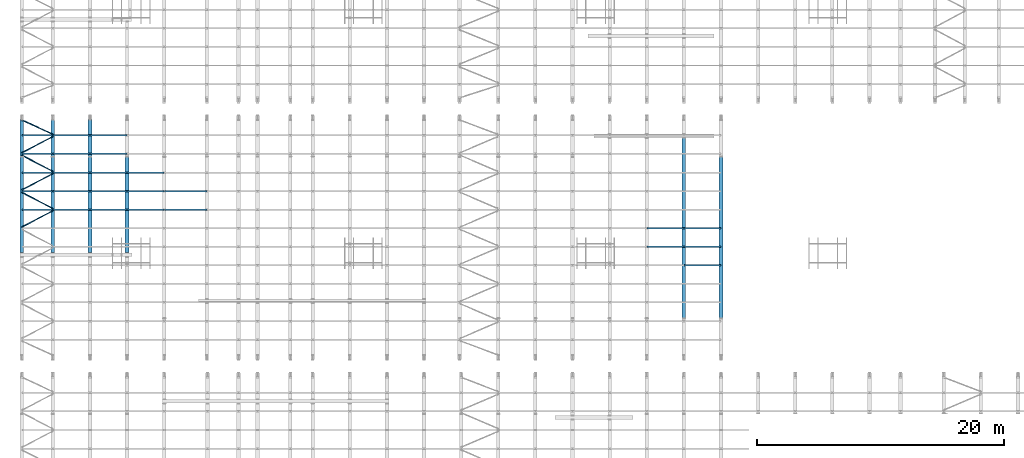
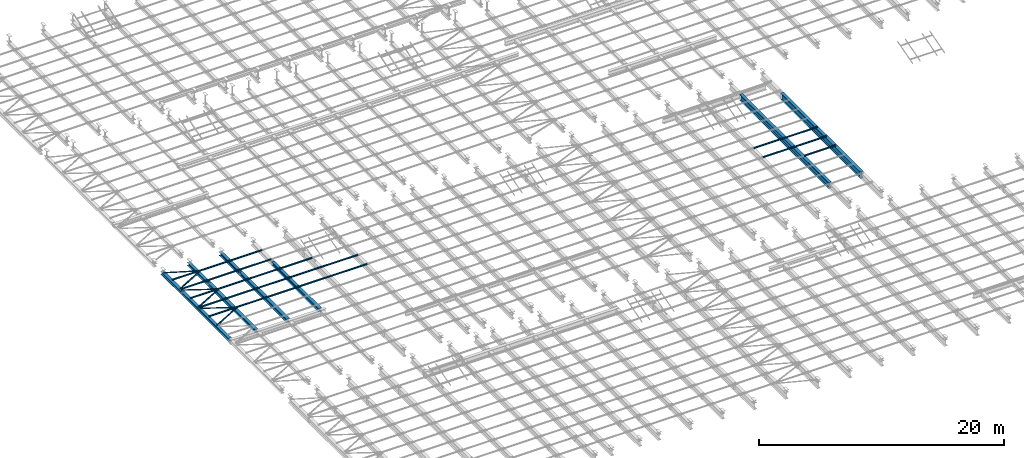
# One storey, part 50 of 139: 40 beams.
"""IFC2X3 building model written with IfcOpenShell, lengths in metres."""

from ifc_helpers import new_model, entity, si_unit, converted_unit, derived_unit, frame, origin, place, context, subcontext, project, spatial, polyline, outline, extrude, material, element, save


model = new_model("IFC2X3")

# Units and contexts
model_context = context("Model", 3, precision=1e-05, world=origin())
body_context = subcontext(model_context, "Body", "Model", "MODEL_VIEW")
ifc_project = project(units=[si_unit("LENGTHUNIT", "METRE"), si_unit("AREAUNIT", "SQUARE_METRE"), si_unit("VOLUMEUNIT", "CUBIC_METRE"), si_unit("MASSUNIT", "GRAM", prefix="KILO"), converted_unit("PLANEANGLEUNIT", "DEGREE", entity("IfcPlaneAngleMeasure", 0.0174532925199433), si_unit("PLANEANGLEUNIT", "RADIAN"), dimensions=[0, 0, 0, 0, 0, 0, 0]), derived_unit("THERMALTRANSMITTANCEUNIT", [(si_unit("POWERUNIT", "WATT"), 1), (si_unit("THERMODYNAMICTEMPERATUREUNIT", "KELVIN"), -1), (si_unit("LENGTHUNIT", "METRE"), -2)]), derived_unit("VOLUMETRICFLOWRATEUNIT", [(si_unit("LENGTHUNIT", "METRE"), 3), (converted_unit("TIMEUNIT", "hour", entity("IfcTimeMeasure", 3600.0), si_unit("TIMEUNIT", "SECOND"), dimensions=[0, 0, 1, 0, 0, 0, 0]), -1), (si_unit("LENGTHUNIT", "METRE"), -1)])], contexts=[model_context])

# Site, building, storey
site_placement = place(None, origin())
site = spatial("IfcSite", under=ifc_project, at=site_placement, Name="TWP_Speiseverteilzentrum SBW VZ II", CompositionType="ELEMENT")
building_placement = place(site_placement, origin())
building = spatial("IfcBuilding", under=site, at=building_placement, Name="Speiseverteilzentrum SBW VZ II", CompositionType="ELEMENT")
storey_placement = place(building_placement, frame((0.0, 0.0, 7.1307)))
storey = spatial("IfcBuildingStorey", under=building, at=storey_placement, Name="Wartung_FFB", CompositionType="ELEMENT", Elevation=7.1307)

# Beams
ifc_material_1 = material(Name="S235")
beam_1_placement = place(storey_placement, frame((10.5500000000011, 47.7020742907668, -0.335), z_axis=(0.0, 0.0, 1.0), x_axis=(-1.0, 0.0, 0.0)))
element("IfcBeam", 1, at=beam_1_placement, inside=storey, material=ifc_material_1, Name="Stahlträger", context=body_context, shape_type="SweptSolid", body=[
    extrude(outline(polyline([(-0.15, 0.145), (-0.15, 0.131), (-0.00424999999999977, 0.131), (-0.00424999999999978, -0.131), (-0.15, -0.131), (-0.15, -0.145), (0.15, -0.145), (0.15, -0.131), (0.00425000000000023, -0.131), (0.00425000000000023, 0.131), (0.15, 0.131), (0.15, 0.145), (-0.15, 0.145)])), frame((0.0, 0.0, 0.0), z_axis=(0.0, 1.0, 0.0), x_axis=(-1.0, 0.0, 0.0)), (0.0, 0.0, 1.0), 7.72726239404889),
])
ifc_material_2 = material(Name="S235")
beam_2_placement = place(storey_placement, frame((13.0500000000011, 47.7020742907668, -0.335), z_axis=(0.0, 0.0, 1.0), x_axis=(-1.0, 0.0, 0.0)))
element("IfcBeam", 2, at=beam_2_placement, inside=storey, material=ifc_material_2, Name="Stahlträger", context=body_context, shape_type="SweptSolid", body=[
    extrude(outline(polyline([(-0.15, 0.145), (-0.15, 0.131), (-0.00424999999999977, 0.131), (-0.00424999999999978, -0.131), (-0.15, -0.131), (-0.15, -0.145), (0.15, -0.145), (0.15, -0.131), (0.00425000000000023, -0.131), (0.00425000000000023, 0.131), (0.15, 0.131), (0.15, 0.145), (-0.15, 0.145)])), frame((0.0, 0.0, 0.0), z_axis=(0.0, 1.0, 0.0), x_axis=(-1.0, 0.0, 0.0)), (0.0, 0.0, 1.0), 7.72726239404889),
])
ifc_material_3 = material(Name="S235")
beam_3_placement = place(storey_placement, frame((19.0500000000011, 47.7020742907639, -0.365), z_axis=(0.0, 0.0, 1.0), x_axis=(-1.0, 0.0, 0.0)))
element("IfcBeam", 3, at=beam_3_placement, inside=storey, material=ifc_material_3, Name="Stahlträger", context=body_context, shape_type="SweptSolid", body=[
    extrude(outline(polyline([(-0.15, 0.175), (-0.15, 0.1575), (-0.00500000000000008, 0.1575), (-0.0050000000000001, -0.1575), (-0.15, -0.1575), (-0.15, -0.175), (0.15, -0.175), (0.15, -0.1575), (0.0049999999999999, -0.1575), (0.00499999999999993, 0.1575), (0.15, 0.1575), (0.15, 0.175), (-0.15, 0.175)])), frame((0.0, 0.0, 0.0), z_axis=(0.0, 1.0, 0.0), x_axis=(-1.0, 0.0, 0.0)), (0.0, 0.0, 1.0), 7.72726239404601),
])
ifc_material_4 = material(Name="S235")
beam_4_placement = place(storey_placement, frame((16.0500000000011, 47.7020742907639, -0.365), z_axis=(0.0, 0.0, 1.0), x_axis=(-1.0, 0.0, 0.0)))
element("IfcBeam", 4, at=beam_4_placement, inside=storey, material=ifc_material_4, Name="Stahlträger", context=body_context, shape_type="SweptSolid", body=[
    extrude(outline(polyline([(-0.15, 0.175), (-0.15, 0.1575), (-0.00500000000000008, 0.1575), (-0.0050000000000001, -0.1575), (-0.15, -0.1575), (-0.15, -0.175), (0.15, -0.175), (0.15, -0.1575), (0.0049999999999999, -0.1575), (0.00499999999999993, 0.1575), (0.15, 0.1575), (0.15, 0.175), (-0.15, 0.175)])), frame((0.0, 0.0, 0.0), z_axis=(0.0, 1.0, 0.0), x_axis=(-1.0, 0.0, 0.0)), (0.0, 0.0, 1.0), 7.72726239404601),
])
ifc_material_5 = material(Name="S235")
beam_5_placement = place(storey_placement, frame((67.0500000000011, 47.7020742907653, -0.51), z_axis=(0.0, 0.0, 1.0), x_axis=(-1.0, 0.0, 0.0)))
element("IfcBeam", 5, at=beam_5_placement, inside=storey, material=ifc_material_5, Name="Stahlträger", context=body_context, shape_type="SweptSolid", body=[
    extrude(outline(polyline([(-0.15, 0.32), (-0.15, 0.294), (-0.00675000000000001, 0.294), (-0.00675000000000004, -0.294), (-0.15, -0.294), (-0.15, -0.32), (0.15, -0.32), (0.15, -0.294), (0.00674999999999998, -0.294), (0.00675000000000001, 0.294), (0.15, 0.294), (0.15, 0.32), (-0.15, 0.32)])), frame((0.0, 0.0, 0.0), z_axis=(0.0, 1.0, 0.0), x_axis=(-1.0, 0.0, 0.0)), (0.0, 0.0, 1.0), 13.0041485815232),
])
ifc_material_6 = material(Name="S235")
beam_6_placement = place(storey_placement, frame((64.0500000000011, 49.224720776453, -0.485), z_axis=(0.0, 0.0, 1.0), x_axis=(-1.0, 0.0, 0.0)))
element("IfcBeam", 6, at=beam_6_placement, inside=storey, material=ifc_material_6, Name="Stahlträger", context=body_context, shape_type="SweptSolid", body=[
    extrude(outline(polyline([(-0.15, 0.295), (-0.15, 0.27), (-0.0065, 0.27), (-0.00650000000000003, -0.27), (-0.15, -0.27), (-0.15, -0.295), (0.15, -0.295), (0.15, -0.27), (0.00649999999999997, -0.27), (0.00650000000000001, 0.27), (0.15, 0.27), (0.15, 0.295), (-0.15, 0.295)])), frame((0.0, 0.0, 0.0), z_axis=(0.0, 1.0, 0.0), x_axis=(-1.0, 0.0, 0.0)), (0.0, 0.0, 1.0), 14.5267950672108),
])
ifc_material_7 = material(Name="S235")
beam_7_placement = place(storey_placement, frame((10.5500000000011, 51.0500000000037, -0.335), z_axis=(0.0, 0.0, 1.0), x_axis=(-1.0, 0.0, 0.0)))
element("IfcBeam", 7, at=beam_7_placement, inside=storey, material=ifc_material_7, Name="Stahlträger", context=body_context, shape_type="SweptSolid", body=[
    extrude(outline(polyline([(-0.15, 0.145), (-0.15, 0.131), (-0.00424999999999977, 0.131), (-0.00424999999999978, -0.131), (-0.15, -0.131), (-0.15, -0.145), (0.15, -0.145), (0.15, -0.131), (0.00425000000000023, -0.131), (0.00425000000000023, 0.131), (0.15, 0.131), (0.15, 0.145), (-0.15, 0.145)])), frame((0.0, 0.0, 0.0), z_axis=(0.0, 1.0, 0.0), x_axis=(-1.0, 0.0, 0.0)), (0.0, 0.0, 1.0), 3.29792570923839),
])
ifc_material_8 = material(Name="S235")
beam_8_placement = place(storey_placement, frame((13.0500000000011, 51.0500000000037, -0.335), z_axis=(0.0, 0.0, 1.0), x_axis=(-1.0, 0.0, 0.0)))
element("IfcBeam", 8, at=beam_8_placement, inside=storey, material=ifc_material_8, Name="Stahlträger", context=body_context, shape_type="SweptSolid", body=[
    extrude(outline(polyline([(-0.15, 0.145), (-0.15, 0.131), (-0.00424999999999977, 0.131), (-0.00424999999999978, -0.131), (-0.15, -0.131), (-0.15, -0.145), (0.15, -0.145), (0.15, -0.131), (0.00425000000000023, -0.131), (0.00425000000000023, 0.131), (0.15, 0.131), (0.15, 0.145), (-0.15, 0.145)])), frame((0.0, 0.0, 0.0), z_axis=(0.0, 1.0, 0.0), x_axis=(-1.0, 0.0, 0.0)), (0.0, 0.0, 1.0), 3.29792570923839),
])
ifc_material_9 = material(Name="S235")
beam_9_placement = place(storey_placement, frame((16.0500000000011, 51.0500000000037, -0.365), z_axis=(0.0, 0.0, 1.0), x_axis=(-1.0, 0.0, 0.0)))
element("IfcBeam", 9, at=beam_9_placement, inside=storey, material=ifc_material_9, Name="Stahlträger", context=body_context, shape_type="SweptSolid", body=[
    extrude(outline(polyline([(-0.15, 0.175), (-0.15, 0.1575), (-0.00500000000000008, 0.1575), (-0.0050000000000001, -0.1575), (-0.15, -0.1575), (-0.15, -0.175), (0.15, -0.175), (0.15, -0.1575), (0.0049999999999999, -0.1575), (0.00499999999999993, 0.1575), (0.15, 0.1575), (0.15, 0.175), (-0.15, 0.175)])), frame((0.0, 0.0, 0.0), z_axis=(0.0, 1.0, 0.0), x_axis=(-1.0, 0.0, 0.0)), (0.0, 0.0, 1.0), 3.29792570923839),
])
ifc_material_10 = material(Name="S235")
beam_10_placement = place(storey_placement, frame((13.0600000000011, 49.4500000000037, -0.133), z_axis=(0.0, 0.0, 1.0), x_axis=(0.0, -1.0, 0.0)))
element("IfcBeam", 10, at=beam_10_placement, inside=storey, material=ifc_material_10, Name="Nebenträger", context=body_context, shape_type="SweptSolid", body=[
    extrude(outline(polyline([(-0.06, 0.0570000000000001), (-0.06, 0.0490000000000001), (-0.00249999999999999, 0.0490000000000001), (-0.0025, -0.0489999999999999), (-0.06, -0.0489999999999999), (-0.06, -0.0569999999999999), (0.06, -0.0569999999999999), (0.06, -0.0489999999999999), (0.0025, -0.0489999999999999), (0.00250000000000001, 0.0490000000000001), (0.06, 0.0490000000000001), (0.06, 0.0570000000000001), (-0.06, 0.0570000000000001)])), frame((0.0, 0.0, 0.0), z_axis=(0.0, 1.0, 0.0), x_axis=(-1.0, 0.0, 0.0)), (0.0, 0.0, 1.0), 2.98),
])
ifc_material_11 = material(Name="S235")
beam_11_placement = place(storey_placement, frame((16.0600000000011, 49.4500000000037, -0.133), z_axis=(0.0, 0.0, 1.0), x_axis=(0.0, -1.0, 0.0)))
element("IfcBeam", 11, at=beam_11_placement, inside=storey, material=ifc_material_11, Name="Nebenträger", context=body_context, shape_type="SweptSolid", body=[
    extrude(outline(polyline([(-0.06, 0.0570000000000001), (-0.06, 0.0490000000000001), (-0.00249999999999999, 0.0490000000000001), (-0.0025, -0.0489999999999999), (-0.06, -0.0489999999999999), (-0.06, -0.0569999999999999), (0.06, -0.0569999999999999), (0.06, -0.0489999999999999), (0.0025, -0.0489999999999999), (0.00250000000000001, 0.0490000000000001), (0.06, 0.0490000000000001), (0.06, 0.0570000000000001), (-0.06, 0.0570000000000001)])), frame((0.0, 0.0, 0.0), z_axis=(0.0, 1.0, 0.0), x_axis=(-1.0, 0.0, 0.0)), (0.0, 0.0, 1.0), 2.98),
])
ifc_material_12 = material(Name="S235")
beam_12_placement = place(storey_placement, frame((10.5600000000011, 49.4500000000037, -0.133), z_axis=(0.0, 0.0, 1.0), x_axis=(0.0, -1.0, 0.0)))
element("IfcBeam", 12, at=beam_12_placement, inside=storey, material=ifc_material_12, Name="Nebenträger", context=body_context, shape_type="SweptSolid", body=[
    extrude(outline(polyline([(-0.06, 0.0570000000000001), (-0.06, 0.0490000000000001), (-0.00249999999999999, 0.0490000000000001), (-0.0025, -0.0489999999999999), (-0.06, -0.0489999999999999), (-0.06, -0.0569999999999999), (0.06, -0.0569999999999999), (0.06, -0.0489999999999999), (0.0025, -0.0489999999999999), (0.00250000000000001, 0.0490000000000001), (0.06, 0.0490000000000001), (0.06, 0.0570000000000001), (-0.06, 0.0570000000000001)])), frame((0.0, 0.0, 0.0), z_axis=(0.0, 1.0, 0.0), x_axis=(-1.0, 0.0, 0.0)), (0.0, 0.0, 1.0), 2.48000000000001),
])
ifc_material_13 = material(Name="S235")
beam_13_placement = place(storey_placement, frame((13.0600000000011, 47.9500000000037, -0.133), z_axis=(0.0, 0.0, 1.0), x_axis=(0.0, -1.0, 0.0)))
element("IfcBeam", 13, at=beam_13_placement, inside=storey, material=ifc_material_13, Name="Nebenträger", context=body_context, shape_type="SweptSolid", body=[
    extrude(outline(polyline([(-0.06, 0.0570000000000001), (-0.06, 0.0490000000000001), (-0.00249999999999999, 0.0490000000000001), (-0.0025, -0.0489999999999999), (-0.06, -0.0489999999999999), (-0.06, -0.0569999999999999), (0.06, -0.0569999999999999), (0.06, -0.0489999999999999), (0.0025, -0.0489999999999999), (0.00250000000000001, 0.0490000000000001), (0.06, 0.0490000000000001), (0.06, 0.0570000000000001), (-0.06, 0.0570000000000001)])), frame((0.0, 0.0, 0.0), z_axis=(0.0, 1.0, 0.0), x_axis=(-1.0, 0.0, 0.0)), (0.0, 0.0, 1.0), 2.98),
])
ifc_material_14 = material(Name="S235")
beam_14_placement = place(storey_placement, frame((16.0600000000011, 47.9500000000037, -0.133), z_axis=(0.0, 0.0, 1.0), x_axis=(0.0, -1.0, 0.0)))
element("IfcBeam", 14, at=beam_14_placement, inside=storey, material=ifc_material_14, Name="Nebenträger", context=body_context, shape_type="SweptSolid", body=[
    extrude(outline(polyline([(-0.06, 0.0570000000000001), (-0.06, 0.0490000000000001), (-0.00249999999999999, 0.0490000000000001), (-0.0025, -0.0489999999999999), (-0.06, -0.0489999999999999), (-0.06, -0.0569999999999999), (0.06, -0.0569999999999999), (0.06, -0.0489999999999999), (0.0025, -0.0489999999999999), (0.00250000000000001, 0.0490000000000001), (0.06, 0.0490000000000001), (0.06, 0.0570000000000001), (-0.06, 0.0570000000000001)])), frame((0.0, 0.0, 0.0), z_axis=(0.0, 1.0, 0.0), x_axis=(-1.0, 0.0, 0.0)), (0.0, 0.0, 1.0), 2.98),
])
ifc_material_15 = material(Name="S235")
beam_15_placement = place(storey_placement, frame((10.5600000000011, 47.9500000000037, -0.133), z_axis=(0.0, 0.0, 1.0), x_axis=(0.0, -1.0, 0.0)))
element("IfcBeam", 15, at=beam_15_placement, inside=storey, material=ifc_material_15, Name="Nebenträger", context=body_context, shape_type="SweptSolid", body=[
    extrude(outline(polyline([(-0.06, 0.0570000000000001), (-0.06, 0.0490000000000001), (-0.00249999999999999, 0.0490000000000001), (-0.0025, -0.0489999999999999), (-0.06, -0.0489999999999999), (-0.06, -0.0569999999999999), (0.06, -0.0569999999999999), (0.06, -0.0489999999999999), (0.0025, -0.0489999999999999), (0.00250000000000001, 0.0490000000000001), (0.06, 0.0490000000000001), (0.06, 0.0570000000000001), (-0.06, 0.0570000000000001)])), frame((0.0, 0.0, 0.0), z_axis=(0.0, 1.0, 0.0), x_axis=(-1.0, 0.0, 0.0)), (0.0, 0.0, 1.0), 2.48000000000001),
])
ifc_material_16 = material(Name="S235")
beam_16_placement = place(storey_placement, frame((13.0600000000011, 46.4500000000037, -0.133), z_axis=(0.0, 0.0, 1.0), x_axis=(0.0, -1.0, 0.0)))
element("IfcBeam", 16, at=beam_16_placement, inside=storey, material=ifc_material_16, Name="Nebenträger", context=body_context, shape_type="SweptSolid", body=[
    extrude(outline(polyline([(-0.06, 0.0570000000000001), (-0.06, 0.0490000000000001), (-0.00249999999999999, 0.0490000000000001), (-0.0025, -0.0489999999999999), (-0.06, -0.0489999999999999), (-0.06, -0.0569999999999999), (0.06, -0.0569999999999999), (0.06, -0.0489999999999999), (0.0025, -0.0489999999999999), (0.00250000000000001, 0.0490000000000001), (0.06, 0.0490000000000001), (0.06, 0.0570000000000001), (-0.06, 0.0570000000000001)])), frame((0.0, 0.0, 0.0), z_axis=(0.0, 1.0, 0.0), x_axis=(-1.0, 0.0, 0.0)), (0.0, 0.0, 1.0), 2.98),
])
ifc_material_17 = material(Name="S235")
beam_17_placement = place(storey_placement, frame((16.0600000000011, 46.4500000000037, -0.133), z_axis=(0.0, 0.0, 1.0), x_axis=(0.0, -1.0, 0.0)))
element("IfcBeam", 17, at=beam_17_placement, inside=storey, material=ifc_material_17, Name="Nebenträger", context=body_context, shape_type="SweptSolid", body=[
    extrude(outline(polyline([(-0.06, 0.0570000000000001), (-0.06, 0.0490000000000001), (-0.00249999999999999, 0.0490000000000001), (-0.0025, -0.0489999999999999), (-0.06, -0.0489999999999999), (-0.06, -0.0569999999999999), (0.06, -0.0569999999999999), (0.06, -0.0489999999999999), (0.0025, -0.0489999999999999), (0.00250000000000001, 0.0490000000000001), (0.06, 0.0490000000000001), (0.06, 0.0570000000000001), (-0.06, 0.0570000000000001)])), frame((0.0, 0.0, 0.0), z_axis=(0.0, 1.0, 0.0), x_axis=(-1.0, 0.0, 0.0)), (0.0, 0.0, 1.0), 2.98),
])
ifc_material_18 = material(Name="S235")
beam_18_placement = place(storey_placement, frame((19.0600000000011, 46.4500000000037, -0.133), z_axis=(0.0, 0.0, 1.0), x_axis=(0.0, -1.0, 0.0)))
element("IfcBeam", 18, at=beam_18_placement, inside=storey, material=ifc_material_18, Name="Nebenträger", context=body_context, shape_type="SweptSolid", body=[
    extrude(outline(polyline([(-0.06, 0.0570000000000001), (-0.06, 0.0490000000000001), (-0.00249999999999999, 0.0490000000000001), (-0.0025, -0.0489999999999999), (-0.06, -0.0489999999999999), (-0.06, -0.0569999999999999), (0.06, -0.0569999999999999), (0.06, -0.0489999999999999), (0.0025, -0.0489999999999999), (0.00250000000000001, 0.0490000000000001), (0.06, 0.0490000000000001), (0.06, 0.0570000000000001), (-0.06, 0.0570000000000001)])), frame((0.0, 0.0, 0.0), z_axis=(0.0, 1.0, 0.0), x_axis=(-1.0, 0.0, 0.0)), (0.0, 0.0, 1.0), 2.98),
])
ifc_material_19 = material(Name="S235")
beam_19_placement = place(storey_placement, frame((10.5600000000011, 46.4500000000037, -0.133), z_axis=(0.0, 0.0, 1.0), x_axis=(0.0, -1.0, 0.0)))
element("IfcBeam", 19, at=beam_19_placement, inside=storey, material=ifc_material_19, Name="Nebenträger", context=body_context, shape_type="SweptSolid", body=[
    extrude(outline(polyline([(-0.06, 0.0570000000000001), (-0.06, 0.0490000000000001), (-0.00249999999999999, 0.0490000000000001), (-0.0025, -0.0489999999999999), (-0.06, -0.0489999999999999), (-0.06, -0.0569999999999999), (0.06, -0.0569999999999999), (0.06, -0.0489999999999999), (0.0025, -0.0489999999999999), (0.00250000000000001, 0.0490000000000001), (0.06, 0.0490000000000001), (0.06, 0.0570000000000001), (-0.06, 0.0570000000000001)])), frame((0.0, 0.0, 0.0), z_axis=(0.0, 1.0, 0.0), x_axis=(-1.0, 0.0, 0.0)), (0.0, 0.0, 1.0), 2.48000000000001),
])
ifc_material_20 = material(Name="S235")
beam_20_placement = place(storey_placement, frame((13.0600000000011, 44.9500000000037, -0.133), z_axis=(0.0, 0.0, 1.0), x_axis=(0.0, -1.0, 0.0)))
element("IfcBeam", 20, at=beam_20_placement, inside=storey, material=ifc_material_20, Name="Nebenträger", context=body_context, shape_type="SweptSolid", body=[
    extrude(outline(polyline([(-0.06, 0.0570000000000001), (-0.06, 0.0490000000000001), (-0.00249999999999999, 0.0490000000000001), (-0.0025, -0.0489999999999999), (-0.06, -0.0489999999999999), (-0.06, -0.0569999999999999), (0.06, -0.0569999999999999), (0.06, -0.0489999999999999), (0.0025, -0.0489999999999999), (0.00250000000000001, 0.0490000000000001), (0.06, 0.0490000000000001), (0.06, 0.0570000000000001), (-0.06, 0.0570000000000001)])), frame((0.0, 0.0, 0.0), z_axis=(0.0, 1.0, 0.0), x_axis=(-1.0, 0.0, 0.0)), (0.0, 0.0, 1.0), 2.98),
])
ifc_material_21 = material(Name="S235")
beam_21_placement = place(storey_placement, frame((16.0600000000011, 44.9500000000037, -0.133), z_axis=(0.0, 0.0, 1.0), x_axis=(0.0, -1.0, 0.0)))
element("IfcBeam", 21, at=beam_21_placement, inside=storey, material=ifc_material_21, Name="Nebenträger", context=body_context, shape_type="SweptSolid", body=[
    extrude(outline(polyline([(-0.06, 0.0570000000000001), (-0.06, 0.0490000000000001), (-0.00249999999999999, 0.0490000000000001), (-0.0025, -0.0489999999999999), (-0.06, -0.0489999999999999), (-0.06, -0.0569999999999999), (0.06, -0.0569999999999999), (0.06, -0.0489999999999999), (0.0025, -0.0489999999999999), (0.00250000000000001, 0.0490000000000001), (0.06, 0.0490000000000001), (0.06, 0.0570000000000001), (-0.06, 0.0570000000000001)])), frame((0.0, 0.0, 0.0), z_axis=(0.0, 1.0, 0.0), x_axis=(-1.0, 0.0, 0.0)), (0.0, 0.0, 1.0), 2.98),
])
ifc_material_22 = material(Name="S235")
beam_22_placement = place(storey_placement, frame((19.0600000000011, 44.9500000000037, -0.133), z_axis=(0.0, 0.0, 1.0), x_axis=(0.0, -1.0, 0.0)))
element("IfcBeam", 22, at=beam_22_placement, inside=storey, material=ifc_material_22, Name="Nebenträger", context=body_context, shape_type="SweptSolid", body=[
    extrude(outline(polyline([(-0.06, 0.0570000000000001), (-0.06, 0.0490000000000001), (-0.00249999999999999, 0.0490000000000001), (-0.0025, -0.0489999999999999), (-0.06, -0.0489999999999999), (-0.06, -0.0569999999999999), (0.06, -0.0569999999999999), (0.06, -0.0489999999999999), (0.0025, -0.0489999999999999), (0.00250000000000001, 0.0490000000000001), (0.06, 0.0490000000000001), (0.06, 0.0570000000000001), (-0.06, 0.0570000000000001)])), frame((0.0, 0.0, 0.0), z_axis=(0.0, 1.0, 0.0), x_axis=(-1.0, 0.0, 0.0)), (0.0, 0.0, 1.0), 2.98),
])
ifc_material_23 = material(Name="S235")
beam_23_placement = place(storey_placement, frame((10.5600000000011, 44.9500000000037, -0.133), z_axis=(0.0, 0.0, 1.0), x_axis=(0.0, -1.0, 0.0)))
element("IfcBeam", 23, at=beam_23_placement, inside=storey, material=ifc_material_23, Name="Nebenträger", context=body_context, shape_type="SweptSolid", body=[
    extrude(outline(polyline([(-0.06, 0.0570000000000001), (-0.06, 0.0490000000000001), (-0.00249999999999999, 0.0490000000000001), (-0.0025, -0.0489999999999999), (-0.06, -0.0489999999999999), (-0.06, -0.0569999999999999), (0.06, -0.0569999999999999), (0.06, -0.0489999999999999), (0.0025, -0.0489999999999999), (0.00250000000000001, 0.0490000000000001), (0.06, 0.0490000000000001), (0.06, 0.0570000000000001), (-0.06, 0.0570000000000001)])), frame((0.0, 0.0, 0.0), z_axis=(0.0, 1.0, 0.0), x_axis=(-1.0, 0.0, 0.0)), (0.0, 0.0, 1.0), 2.48000000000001),
])
ifc_material_24 = material(Name="S235")
beam_24_placement = place(storey_placement, frame((13.0600000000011, 43.4500000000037, -0.133), z_axis=(0.0, 0.0, 1.0), x_axis=(0.0, -1.0, 0.0)))
element("IfcBeam", 24, at=beam_24_placement, inside=storey, material=ifc_material_24, Name="Nebenträger", context=body_context, shape_type="SweptSolid", body=[
    extrude(outline(polyline([(-0.06, 0.0570000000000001), (-0.06, 0.0490000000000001), (-0.00249999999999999, 0.0490000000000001), (-0.0025, -0.0489999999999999), (-0.06, -0.0489999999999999), (-0.06, -0.0569999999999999), (0.06, -0.0569999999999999), (0.06, -0.0489999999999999), (0.0025, -0.0489999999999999), (0.00250000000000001, 0.0490000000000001), (0.06, 0.0490000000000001), (0.06, 0.0570000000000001), (-0.06, 0.0570000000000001)])), frame((0.0, 0.0, 0.0), z_axis=(0.0, 1.0, 0.0), x_axis=(-1.0, 0.0, 0.0)), (0.0, 0.0, 1.0), 2.98),
])
ifc_material_25 = material(Name="S235")
beam_25_placement = place(storey_placement, frame((16.0600000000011, 43.4500000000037, -0.133), z_axis=(0.0, 0.0, 1.0), x_axis=(0.0, -1.0, 0.0)))
element("IfcBeam", 25, at=beam_25_placement, inside=storey, material=ifc_material_25, Name="Nebenträger", context=body_context, shape_type="SweptSolid", body=[
    extrude(outline(polyline([(-0.06, 0.0570000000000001), (-0.06, 0.0490000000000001), (-0.00249999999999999, 0.0490000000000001), (-0.0025, -0.0489999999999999), (-0.06, -0.0489999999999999), (-0.06, -0.0569999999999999), (0.06, -0.0569999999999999), (0.06, -0.0489999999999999), (0.0025, -0.0489999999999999), (0.00250000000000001, 0.0490000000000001), (0.06, 0.0490000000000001), (0.06, 0.0570000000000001), (-0.06, 0.0570000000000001)])), frame((0.0, 0.0, 0.0), z_axis=(0.0, 1.0, 0.0), x_axis=(-1.0, 0.0, 0.0)), (0.0, 0.0, 1.0), 2.98),
])
ifc_material_26 = material(Name="S235")
beam_26_placement = place(storey_placement, frame((19.0600000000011, 43.4500000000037, -0.133), z_axis=(0.0, 0.0, 1.0), x_axis=(0.0, -1.0, 0.0)))
element("IfcBeam", 26, at=beam_26_placement, inside=storey, material=ifc_material_26, Name="Nebenträger", context=body_context, shape_type="SweptSolid", body=[
    extrude(outline(polyline([(-0.06, 0.0570000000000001), (-0.06, 0.0490000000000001), (-0.00249999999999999, 0.0490000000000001), (-0.0025, -0.0489999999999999), (-0.06, -0.0489999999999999), (-0.06, -0.0569999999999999), (0.06, -0.0569999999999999), (0.06, -0.0489999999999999), (0.0025, -0.0489999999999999), (0.00250000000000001, 0.0490000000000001), (0.06, 0.0490000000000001), (0.06, 0.0570000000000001), (-0.06, 0.0570000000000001)])), frame((0.0, 0.0, 0.0), z_axis=(0.0, 1.0, 0.0), x_axis=(-1.0, 0.0, 0.0)), (0.0, 0.0, 1.0), 2.98),
])
ifc_material_27 = material(Name="S235")
beam_27_placement = place(storey_placement, frame((10.5600000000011, 43.4500000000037, -0.133), z_axis=(0.0, 0.0, 1.0), x_axis=(0.0, -1.0, 0.0)))
element("IfcBeam", 27, at=beam_27_placement, inside=storey, material=ifc_material_27, Name="Nebenträger", context=body_context, shape_type="SweptSolid", body=[
    extrude(outline(polyline([(-0.06, 0.0570000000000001), (-0.06, 0.0490000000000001), (-0.00249999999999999, 0.0490000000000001), (-0.0025, -0.0489999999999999), (-0.06, -0.0489999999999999), (-0.06, -0.0569999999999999), (0.06, -0.0569999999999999), (0.06, -0.0489999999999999), (0.0025, -0.0489999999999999), (0.00250000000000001, 0.0490000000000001), (0.06, 0.0490000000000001), (0.06, 0.0570000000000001), (-0.06, 0.0570000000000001)])), frame((0.0, 0.0, 0.0), z_axis=(0.0, 1.0, 0.0), x_axis=(-1.0, 0.0, 0.0)), (0.0, 0.0, 1.0), 2.48000000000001),
])
ifc_material_28 = material(Name="S235")
beam_28_placement = place(storey_placement, frame((64.0600000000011, 41.9500000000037, -0.133), z_axis=(0.0, 0.0, 1.0), x_axis=(0.0, -1.0, 0.0)))
element("IfcBeam", 28, at=beam_28_placement, inside=storey, material=ifc_material_28, Name="Nebenträger", context=body_context, shape_type="SweptSolid", body=[
    extrude(outline(polyline([(-0.06, 0.0570000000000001), (-0.06, 0.0490000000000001), (-0.00249999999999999, 0.0490000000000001), (-0.0025, -0.0489999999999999), (-0.06, -0.0489999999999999), (-0.06, -0.0569999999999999), (0.06, -0.0569999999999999), (0.06, -0.0489999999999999), (0.0025, -0.0489999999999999), (0.00250000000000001, 0.0490000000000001), (0.06, 0.0490000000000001), (0.06, 0.0570000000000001), (-0.06, 0.0570000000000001)])), frame((0.0, 0.0, 0.0), z_axis=(0.0, 1.0, 0.0), x_axis=(-1.0, 0.0, 0.0)), (0.0, 0.0, 1.0), 2.98000000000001),
])
ifc_material_29 = material(Name="S235")
beam_29_placement = place(storey_placement, frame((61.0600000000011, 41.9500000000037, -0.133), z_axis=(0.0, 0.0, 1.0), x_axis=(0.0, -1.0, 0.0)))
element("IfcBeam", 29, at=beam_29_placement, inside=storey, material=ifc_material_29, Name="Nebenträger", context=body_context, shape_type="SweptSolid", body=[
    extrude(outline(polyline([(-0.06, 0.0570000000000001), (-0.06, 0.0490000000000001), (-0.00249999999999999, 0.0490000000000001), (-0.0025, -0.0489999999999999), (-0.06, -0.0489999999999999), (-0.06, -0.0569999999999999), (0.06, -0.0569999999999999), (0.06, -0.0489999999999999), (0.0025, -0.0489999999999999), (0.00250000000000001, 0.0490000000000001), (0.06, 0.0490000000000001), (0.06, 0.0570000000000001), (-0.06, 0.0570000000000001)])), frame((0.0, 0.0, 0.0), z_axis=(0.0, 1.0, 0.0), x_axis=(-1.0, 0.0, 0.0)), (0.0, 0.0, 1.0), 2.98),
])
ifc_material_30 = material(Name="S235")
beam_30_placement = place(storey_placement, frame((64.0600000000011, 40.4500000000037, -0.133), z_axis=(0.0, 0.0, 1.0), x_axis=(0.0, -1.0, 0.0)))
element("IfcBeam", 30, at=beam_30_placement, inside=storey, material=ifc_material_30, Name="Nebenträger", context=body_context, shape_type="SweptSolid", body=[
    extrude(outline(polyline([(-0.06, 0.0570000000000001), (-0.06, 0.0490000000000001), (-0.00249999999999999, 0.0490000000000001), (-0.0025, -0.0489999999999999), (-0.06, -0.0489999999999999), (-0.06, -0.0569999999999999), (0.06, -0.0569999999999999), (0.06, -0.0489999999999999), (0.0025, -0.0489999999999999), (0.00250000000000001, 0.0490000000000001), (0.06, 0.0490000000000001), (0.06, 0.0570000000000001), (-0.06, 0.0570000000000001)])), frame((0.0, 0.0, 0.0), z_axis=(0.0, 1.0, 0.0), x_axis=(-1.0, 0.0, 0.0)), (0.0, 0.0, 1.0), 2.98000000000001),
])
ifc_material_31 = material(Name="S235")
beam_31_placement = place(storey_placement, frame((61.0600000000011, 40.4500000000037, -0.133), z_axis=(0.0, 0.0, 1.0), x_axis=(0.0, -1.0, 0.0)))
element("IfcBeam", 31, at=beam_31_placement, inside=storey, material=ifc_material_31, Name="Nebenträger", context=body_context, shape_type="SweptSolid", body=[
    extrude(outline(polyline([(-0.06, 0.0570000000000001), (-0.06, 0.0490000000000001), (-0.00249999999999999, 0.0490000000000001), (-0.0025, -0.0489999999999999), (-0.06, -0.0489999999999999), (-0.06, -0.0569999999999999), (0.06, -0.0569999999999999), (0.06, -0.0489999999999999), (0.0025, -0.0489999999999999), (0.00250000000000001, 0.0490000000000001), (0.06, 0.0490000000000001), (0.06, 0.0570000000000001), (-0.06, 0.0570000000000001)])), frame((0.0, 0.0, 0.0), z_axis=(0.0, 1.0, 0.0), x_axis=(-1.0, 0.0, 0.0)), (0.0, 0.0, 1.0), 2.98),
])
ifc_material_32 = material(Name="S235")
beam_32_placement = place(storey_placement, frame((64.0600000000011, 38.9500000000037, -0.133), z_axis=(0.0, 0.0, 1.0), x_axis=(0.0, -1.0, 0.0)))
element("IfcBeam", 32, at=beam_32_placement, inside=storey, material=ifc_material_32, Name="Nebenträger", context=body_context, shape_type="SweptSolid", body=[
    extrude(outline(polyline([(-0.06, 0.0570000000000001), (-0.06, 0.0490000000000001), (-0.00249999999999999, 0.0490000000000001), (-0.0025, -0.0489999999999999), (-0.06, -0.0489999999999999), (-0.06, -0.0569999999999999), (0.06, -0.0569999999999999), (0.06, -0.0489999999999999), (0.0025, -0.0489999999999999), (0.00250000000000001, 0.0490000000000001), (0.06, 0.0490000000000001), (0.06, 0.0570000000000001), (-0.06, 0.0570000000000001)])), frame((0.0, 0.0, 0.0), z_axis=(0.0, 1.0, 0.0), x_axis=(-1.0, 0.0, 0.0)), (0.0, 0.0, 1.0), 2.98000000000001),
])
ifc_material_33 = material(Name="S235")
beam_33_placement = place(storey_placement, frame((22.0600000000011, 44.9500000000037, -0.133), z_axis=(0.0, 0.0, 1.0), x_axis=(0.0, -1.0, 0.0)))
element("IfcBeam", 33, at=beam_33_placement, inside=storey, material=ifc_material_33, Name="Nebenträger", context=body_context, shape_type="SweptSolid", body=[
    extrude(outline(polyline([(-0.06, 0.0570000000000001), (-0.06, 0.0490000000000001), (-0.00249999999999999, 0.0490000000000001), (-0.0025, -0.0489999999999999), (-0.06, -0.0489999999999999), (-0.06, -0.0569999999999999), (0.06, -0.0569999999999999), (0.06, -0.0489999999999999), (0.0025, -0.0489999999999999), (0.00250000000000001, 0.0490000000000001), (0.06, 0.0490000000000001), (0.06, 0.0570000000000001), (-0.06, 0.0570000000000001)])), frame((0.0, 0.0, 0.0), z_axis=(0.0, 1.0, 0.0), x_axis=(-1.0, 0.0, 0.0)), (0.0, 0.0, 1.0), 3.43255227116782),
])
ifc_material_34 = material(Name="S235")
beam_34_placement = place(storey_placement, frame((22.0600000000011, 43.4500000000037, -0.133), z_axis=(0.0, 0.0, 1.0), x_axis=(0.0, -1.0, 0.0)))
element("IfcBeam", 34, at=beam_34_placement, inside=storey, material=ifc_material_34, Name="Nebenträger", context=body_context, shape_type="SweptSolid", body=[
    extrude(outline(polyline([(-0.06, 0.0570000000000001), (-0.06, 0.0490000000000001), (-0.00249999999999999, 0.0490000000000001), (-0.0025, -0.0489999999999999), (-0.06, -0.0489999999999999), (-0.06, -0.0569999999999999), (0.06, -0.0569999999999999), (0.06, -0.0489999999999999), (0.0025, -0.0489999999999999), (0.00250000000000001, 0.0490000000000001), (0.06, 0.0490000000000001), (0.06, 0.0570000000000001), (-0.06, 0.0570000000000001)])), frame((0.0, 0.0, 0.0), z_axis=(0.0, 1.0, 0.0), x_axis=(-1.0, 0.0, 0.0)), (0.0, 0.0, 1.0), 3.43255227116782),
])
ifc_material_35 = material(Name="S235")
beam_35_placement = place(storey_placement, frame((10.5365784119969, 48.0668184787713, -0.167052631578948), z_axis=(0.0, 0.0, 1.0), x_axis=(0.4612662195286, -0.887261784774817, 0.0)))
element("IfcBeam", 35, at=beam_35_placement, inside=storey, material=ifc_material_35, Name="Kreuzverband", context=body_context, shape_type="SweptSolid", body=[
    extrude(outline(polyline([(0.0229473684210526, -0.0229473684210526), (0.0229473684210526, 0.0570526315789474), (0.0149473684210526, 0.0570526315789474), (0.0149473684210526, -0.0149473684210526), (-0.0570526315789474, -0.0149473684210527), (-0.0570526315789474, -0.0229473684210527), (0.0229473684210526, -0.0229473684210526)])), frame((0.0, 0.0, 0.0), z_axis=(0.0, 1.00000000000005, 0.0), x_axis=(-1.0, 0.0, 0.0)), (0.0, 0.0, 1.0), 2.82000000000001),
])
ifc_material_36 = material(Name="S235")
beam_36_placement = place(storey_placement, frame((10.5365784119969, 47.8331815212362, -0.167052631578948), z_axis=(0.0, 0.0, 1.0), x_axis=(-0.4612662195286, -0.887261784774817, 0.0)))
element("IfcBeam", 36, at=beam_36_placement, inside=storey, material=ifc_material_36, Name="Kreuzverband", context=body_context, shape_type="SweptSolid", body=[
    extrude(outline(polyline([(0.0570526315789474, -0.0229473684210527), (0.0570526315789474, -0.0149473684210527), (-0.0149473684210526, -0.0149473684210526), (-0.0149473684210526, 0.0570526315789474), (-0.0229473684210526, 0.0570526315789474), (-0.0229473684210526, -0.0229473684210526), (0.0570526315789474, -0.0229473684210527)])), frame((0.0, 0.0, 0.0), z_axis=(0.0, 1.00000000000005, 0.0), x_axis=(-1.0, 0.0, 0.0)), (0.0, 0.0, 1.0), 2.82000000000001),
])
ifc_material_37 = material(Name="S235")
beam_37_placement = place(storey_placement, frame((10.5365784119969, 45.0668184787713, -0.167052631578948), z_axis=(0.0, 0.0, 1.0), x_axis=(0.4612662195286, -0.887261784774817, 0.0)))
element("IfcBeam", 37, at=beam_37_placement, inside=storey, material=ifc_material_37, Name="Kreuzverband", context=body_context, shape_type="SweptSolid", body=[
    extrude(outline(polyline([(0.0229473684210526, -0.0229473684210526), (0.0229473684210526, 0.0570526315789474), (0.0149473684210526, 0.0570526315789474), (0.0149473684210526, -0.0149473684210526), (-0.0570526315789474, -0.0149473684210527), (-0.0570526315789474, -0.0229473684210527), (0.0229473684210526, -0.0229473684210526)])), frame((0.0, 0.0, 0.0), z_axis=(0.0, 1.00000000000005, 0.0), x_axis=(-1.0, 0.0, 0.0)), (0.0, 0.0, 1.0), 2.82000000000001),
])
ifc_material_38 = material(Name="S235")
beam_38_placement = place(storey_placement, frame((10.5365784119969, 44.8331815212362, -0.167052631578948), z_axis=(0.0, 0.0, 1.0), x_axis=(-0.4612662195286, -0.887261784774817, 0.0)))
element("IfcBeam", 38, at=beam_38_placement, inside=storey, material=ifc_material_38, Name="Kreuzverband", context=body_context, shape_type="SweptSolid", body=[
    extrude(outline(polyline([(0.0570526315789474, -0.0229473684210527), (0.0570526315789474, -0.0149473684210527), (-0.0149473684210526, -0.0149473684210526), (-0.0149473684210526, 0.0570526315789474), (-0.0229473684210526, 0.0570526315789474), (-0.0229473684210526, -0.0229473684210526), (0.0570526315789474, -0.0229473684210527)])), frame((0.0, 0.0, 0.0), z_axis=(0.0, 1.00000000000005, 0.0), x_axis=(-1.0, 0.0, 0.0)), (0.0, 0.0, 1.0), 2.82000000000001),
])
ifc_material_39 = material(Name="S235")
beam_39_placement = place(storey_placement, frame((10.5365784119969, 42.0668184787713, -0.167052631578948), z_axis=(0.0, 0.0, 1.0), x_axis=(0.4612662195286, -0.887261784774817, 0.0)))
element("IfcBeam", 39, at=beam_39_placement, inside=storey, material=ifc_material_39, Name="Kreuzverband", context=body_context, shape_type="SweptSolid", body=[
    extrude(outline(polyline([(0.0229473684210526, -0.0229473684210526), (0.0229473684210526, 0.0570526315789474), (0.0149473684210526, 0.0570526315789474), (0.0149473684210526, -0.0149473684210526), (-0.0570526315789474, -0.0149473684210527), (-0.0570526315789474, -0.0229473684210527), (0.0229473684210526, -0.0229473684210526)])), frame((0.0, 0.0, 0.0), z_axis=(0.0, 1.00000000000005, 0.0), x_axis=(-1.0, 0.0, 0.0)), (0.0, 0.0, 1.0), 2.82000000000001),
])
ifc_material_40 = material(Name="S235")
beam_40_placement = place(storey_placement, frame((10.504026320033, 50.6951072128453, -0.167052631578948), z_axis=(0.0, 0.0, 1.0), x_axis=(-0.416939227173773, -0.908934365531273, 0.0)))
element("IfcBeam", 40, at=beam_40_placement, inside=storey, material=ifc_material_40, Name="Kreuzverband", context=body_context, shape_type="SweptSolid", body=[
    extrude(outline(polyline([(0.0570526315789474, -0.0229473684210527), (0.0570526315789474, -0.0149473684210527), (-0.0149473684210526, -0.0149473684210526), (-0.0149473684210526, 0.0570526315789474), (-0.0229473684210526, 0.0570526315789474), (-0.0229473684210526, -0.0229473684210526), (0.0570526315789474, -0.0229473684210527)])), frame((0.0, 0.0, 0.0), z_axis=(0.0, 1.00000000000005, 0.0), x_axis=(-1.0, 0.0, 0.0)), (0.0, 0.0, 1.0), 2.78745444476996),
])

save(model, "model.ifc")
